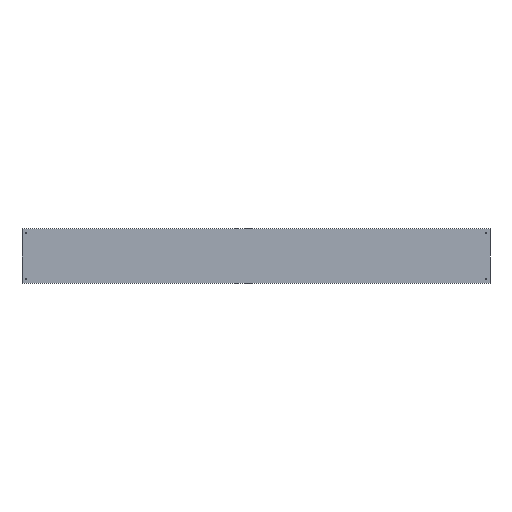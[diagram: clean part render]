
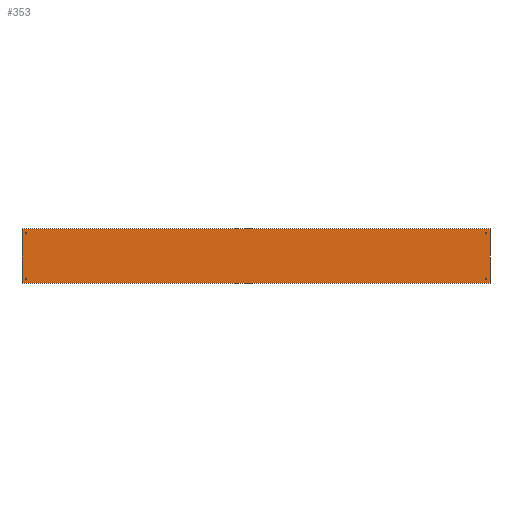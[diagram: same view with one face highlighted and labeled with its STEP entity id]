
A CAD part, top view. The second image highlights one B-rep face of the part: STEP entity #353.
In plain terms, the highlighted planar face has unit normal (0, 0, 1).
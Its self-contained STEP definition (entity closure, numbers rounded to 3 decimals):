
#30=FACE_BOUND('',#82,.T.);
#31=FACE_BOUND('',#83,.T.);
#32=FACE_BOUND('',#84,.T.);
#33=FACE_BOUND('',#85,.T.);
#42=CIRCLE('',#383,5.);
#43=CIRCLE('',#384,5.);
#44=CIRCLE('',#385,5.);
#45=CIRCLE('',#386,5.);
#46=CIRCLE('',#387,5.);
#47=CIRCLE('',#388,5.);
#48=CIRCLE('',#389,5.);
#49=CIRCLE('',#390,5.);
#59=FACE_OUTER_BOUND('',#81,.T.);
#81=EDGE_LOOP('',(#290,#291,#292,#293));
#82=EDGE_LOOP('',(#294,#295));
#83=EDGE_LOOP('',(#296,#297));
#84=EDGE_LOOP('',(#298,#299));
#85=EDGE_LOOP('',(#300,#301));
#101=LINE('',#524,#133);
#103=LINE('',#530,#135);
#110=LINE('',#543,#142);
#117=LINE('',#572,#149);
#133=VECTOR('',#413,304.8);
#135=VECTOR('',#417,304.8);
#142=VECTOR('',#426,304.8);
#149=VECTOR('',#461,304.8);
#158=VERTEX_POINT('',#509);
#165=VERTEX_POINT('',#522);
#167=VERTEX_POINT('',#527);
#168=VERTEX_POINT('',#529);
#182=VERTEX_POINT('',#574);
#183=VERTEX_POINT('',#575);
#184=VERTEX_POINT('',#578);
#185=VERTEX_POINT('',#579);
#186=VERTEX_POINT('',#582);
#187=VERTEX_POINT('',#583);
#188=VERTEX_POINT('',#586);
#189=VERTEX_POINT('',#587);
#197=EDGE_CURVE('',#165,#158,#101,.T.);
#199=EDGE_CURVE('',#167,#168,#103,.T.);
#206=EDGE_CURVE('',#158,#167,#110,.T.);
#221=EDGE_CURVE('',#168,#165,#117,.T.);
#222=EDGE_CURVE('',#182,#183,#42,.T.);
#223=EDGE_CURVE('',#183,#182,#43,.T.);
#224=EDGE_CURVE('',#184,#185,#44,.T.);
#225=EDGE_CURVE('',#185,#184,#45,.T.);
#226=EDGE_CURVE('',#186,#187,#46,.T.);
#227=EDGE_CURVE('',#187,#186,#47,.T.);
#228=EDGE_CURVE('',#188,#189,#48,.T.);
#229=EDGE_CURVE('',#189,#188,#49,.T.);
#290=ORIENTED_EDGE('',*,*,#197,.F.);
#291=ORIENTED_EDGE('',*,*,#221,.F.);
#292=ORIENTED_EDGE('',*,*,#199,.F.);
#293=ORIENTED_EDGE('',*,*,#206,.F.);
#294=ORIENTED_EDGE('',*,*,#222,.T.);
#295=ORIENTED_EDGE('',*,*,#223,.T.);
#296=ORIENTED_EDGE('',*,*,#224,.T.);
#297=ORIENTED_EDGE('',*,*,#225,.T.);
#298=ORIENTED_EDGE('',*,*,#226,.T.);
#299=ORIENTED_EDGE('',*,*,#227,.T.);
#300=ORIENTED_EDGE('',*,*,#228,.T.);
#301=ORIENTED_EDGE('',*,*,#229,.T.);
#343=PLANE('',#382);
#353=ADVANCED_FACE('',(#59,#30,#31,#32,#33),#343,.T.);
#382=AXIS2_PLACEMENT_3D('',#573,#462,#463);
#383=AXIS2_PLACEMENT_3D('',#576,#464,#465);
#384=AXIS2_PLACEMENT_3D('',#577,#466,#467);
#385=AXIS2_PLACEMENT_3D('',#580,#468,#469);
#386=AXIS2_PLACEMENT_3D('',#581,#470,#471);
#387=AXIS2_PLACEMENT_3D('',#584,#472,#473);
#388=AXIS2_PLACEMENT_3D('',#585,#474,#475);
#389=AXIS2_PLACEMENT_3D('',#588,#476,#477);
#390=AXIS2_PLACEMENT_3D('',#589,#478,#479);
#413=DIRECTION('',(0.,-1.,0.));
#417=DIRECTION('',(0.,1.,0.));
#426=DIRECTION('',(-1.,0.,0.));
#461=DIRECTION('',(1.,0.,0.));
#462=DIRECTION('center_axis',(0.,0.,1.));
#463=DIRECTION('ref_axis',(-1.,0.,0.));
#464=DIRECTION('center_axis',(0.,0.,-1.));
#465=DIRECTION('ref_axis',(1.,0.,0.));
#466=DIRECTION('center_axis',(0.,0.,-1.));
#467=DIRECTION('ref_axis',(1.,0.,0.));
#468=DIRECTION('center_axis',(0.,0.,-1.));
#469=DIRECTION('ref_axis',(1.,0.,0.));
#470=DIRECTION('center_axis',(0.,0.,-1.));
#471=DIRECTION('ref_axis',(1.,0.,0.));
#472=DIRECTION('center_axis',(0.,0.,-1.));
#473=DIRECTION('ref_axis',(1.,0.,0.));
#474=DIRECTION('center_axis',(0.,0.,-1.));
#475=DIRECTION('ref_axis',(1.,0.,0.));
#476=DIRECTION('center_axis',(0.,0.,-1.));
#477=DIRECTION('ref_axis',(1.,0.,0.));
#478=DIRECTION('center_axis',(0.,0.,-1.));
#479=DIRECTION('ref_axis',(1.,0.,0.));
#509=CARTESIAN_POINT('',(3000.,-175.,1.5));
#522=CARTESIAN_POINT('',(3000.,175.,1.5));
#524=CARTESIAN_POINT('',(3000.,175.,1.5));
#527=CARTESIAN_POINT('',(0.,-175.,1.5));
#529=CARTESIAN_POINT('',(0.,175.,1.5));
#530=CARTESIAN_POINT('',(0.,-175.,1.5));
#543=CARTESIAN_POINT('',(3000.,-175.,1.5));
#572=CARTESIAN_POINT('',(3000.,175.,1.5));
#573=CARTESIAN_POINT('Origin',(3000.,175.,1.5));
#574=CARTESIAN_POINT('',(30.,148.5,1.5));
#575=CARTESIAN_POINT('',(20.,148.5,1.5));
#576=CARTESIAN_POINT('Origin',(25.,148.5,1.5));
#577=CARTESIAN_POINT('Origin',(25.,148.5,1.5));
#578=CARTESIAN_POINT('',(30.,-148.5,1.5));
#579=CARTESIAN_POINT('',(20.,-148.5,1.5));
#580=CARTESIAN_POINT('Origin',(25.,-148.5,1.5));
#581=CARTESIAN_POINT('Origin',(25.,-148.5,1.5));
#582=CARTESIAN_POINT('',(2980.,148.5,1.5));
#583=CARTESIAN_POINT('',(2970.,148.5,1.5));
#584=CARTESIAN_POINT('Origin',(2975.,148.5,1.5));
#585=CARTESIAN_POINT('Origin',(2975.,148.5,1.5));
#586=CARTESIAN_POINT('',(2980.,-148.5,1.5));
#587=CARTESIAN_POINT('',(2970.,-148.5,1.5));
#588=CARTESIAN_POINT('Origin',(2975.,-148.5,1.5));
#589=CARTESIAN_POINT('Origin',(2975.,-148.5,1.5));
